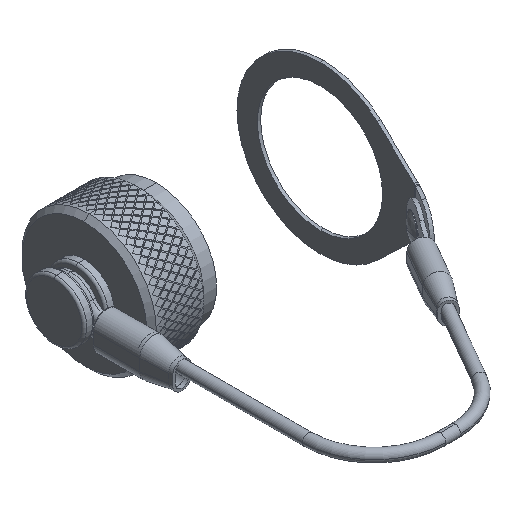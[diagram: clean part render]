
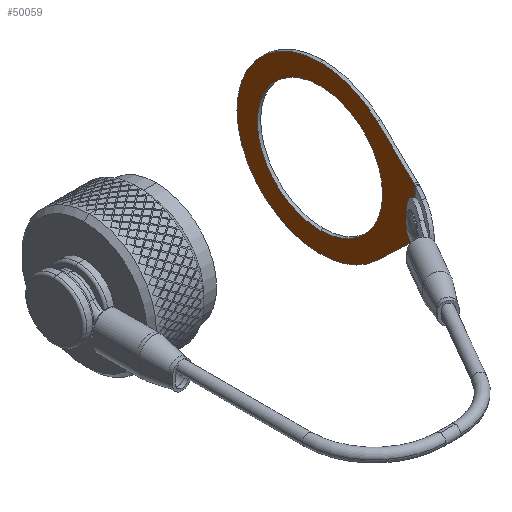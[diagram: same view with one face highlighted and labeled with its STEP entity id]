
A CAD part, isometric view. The second image highlights one B-rep face of the part: STEP entity #50059.
In plain terms, the highlighted planar face has unit normal (-1, 0, 0) as drawn and (0, 0, 1) by its records, which use the part's own axes.
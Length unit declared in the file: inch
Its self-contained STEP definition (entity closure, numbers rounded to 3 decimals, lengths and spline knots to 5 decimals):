
#1319 = CARTESIAN_POINT ( 'NONE',  ( -0.19685, -0.79528, 0.01378 ) ) ;
#2137 = DIRECTION ( 'NONE',  ( 0., 0., 1. ) ) ;
#3232 = DIRECTION ( 'NONE',  ( -1., 0., 0. ) ) ;
#5678 = CARTESIAN_POINT ( 'NONE',  ( 0., 0., 0.01378 ) ) ;
#6051 = CARTESIAN_POINT ( 'NONE',  ( 0.50041, -0.47644, 0.01378 ) ) ;
#7449 = CARTESIAN_POINT ( 'NONE',  ( 0.69094, 0., 0.01378 ) ) ;
#7979 = ORIENTED_EDGE ( 'NONE', *, *, #36018, .T. ) ;
#10494 = AXIS2_PLACEMENT_3D ( 'NONE', #18802, #14773, #13367 ) ;
#10803 = CARTESIAN_POINT ( 'NONE',  ( 0., 0., 0.01378 ) ) ;
#13367 = DIRECTION ( 'NONE',  ( 1., 0., 0. ) ) ;
#13374 = CARTESIAN_POINT ( 'NONE',  ( 0., -0.78408, 0.01378 ) ) ;
#13717 = FACE_OUTER_BOUND ( 'NONE', #45715, .T. ) ;
#14394 = ORIENTED_EDGE ( 'NONE', *, *, #31587, .T. ) ;
#14773 = DIRECTION ( 'NONE',  ( 0., 0., 1. ) ) ;
#17141 = EDGE_CURVE ( 'NONE', #61989, #52130, #48514, .T. ) ;
#18208 = EDGE_CURVE ( 'NONE', #64683, #63723, #67294, .T. ) ;
#18802 = CARTESIAN_POINT ( 'NONE',  ( 0., -0.94488, 0.01378 ) ) ;
#19072 = AXIS2_PLACEMENT_3D ( 'NONE', #5678, #27690, #65478 ) ;
#19531 = AXIS2_PLACEMENT_3D ( 'NONE', #51509, #2137, #67687 ) ;
#19985 = DIRECTION ( 'NONE',  ( 0., 0., 1. ) ) ;
#20705 = CARTESIAN_POINT ( 'NONE',  ( 0., 0., 0.01378 ) ) ;
#21049 = ORIENTED_EDGE ( 'NONE', *, *, #46947, .T. ) ;
#21525 = VECTOR ( 'NONE', #39191, 39.37008 ) ;
#22300 = CIRCLE ( 'NONE', #54477, 0.52165 ) ;
#22392 = VERTEX_POINT ( 'NONE', #48174 ) ;
#23854 = ORIENTED_EDGE ( 'NONE', *, *, #68400, .F. ) ;
#26249 = ORIENTED_EDGE ( 'NONE', *, *, #28507, .F. ) ;
#27646 = VERTEX_POINT ( 'NONE', #33063 ) ;
#27690 = DIRECTION ( 'NONE',  ( 0., 0., 1. ) ) ;
#28507 = EDGE_CURVE ( 'NONE', #64468, #27646, #54000, .T. ) ;
#30086 = AXIS2_PLACEMENT_3D ( 'NONE', #20705, #19985, #30767 ) ;
#30274 = ORIENTED_EDGE ( 'NONE', *, *, #17141, .T. ) ;
#30637 = LINE ( 'NONE', #13374, #55312 ) ;
#30767 = DIRECTION ( 'NONE',  ( 1., 0., 0. ) ) ;
#30989 = PLANE ( 'NONE',  #10494 ) ;
#31522 = DIRECTION ( 'NONE',  ( 1., 0., 0. ) ) ;
#31587 = EDGE_CURVE ( 'NONE', #63723, #61989, #50787, .T. ) ;
#33063 = CARTESIAN_POINT ( 'NONE',  ( 0.52165, 0., 0.01378 ) ) ;
#34462 = LINE ( 'NONE', #1319, #21525 ) ;
#35135 = LINE ( 'NONE', #46670, #59936 ) ;
#36018 = EDGE_CURVE ( 'NONE', #52130, #22392, #34462, .T. ) ;
#37223 = DIRECTION ( 'NONE',  ( 0., 0., 1. ) ) ;
#39191 = DIRECTION ( 'NONE',  ( 0.69, -0.724, 0. ) ) ;
#39457 = CARTESIAN_POINT ( 'NONE',  ( -0.50041, -0.47644, 0.01378 ) ) ;
#41427 = CARTESIAN_POINT ( 'NONE',  ( -0.52165, 0., 0.01378 ) ) ;
#45715 = EDGE_LOOP ( 'NONE', ( #23854, #21049, #52720, #14394, #30274, #7979 ) ) ;
#45791 = ORIENTED_EDGE ( 'NONE', *, *, #54943, .F. ) ;
#46072 = CARTESIAN_POINT ( 'NONE',  ( 0.20751, -0.78408, 0.01378 ) ) ;
#46670 = CARTESIAN_POINT ( 'NONE',  ( 0.19685, -0.79528, 0.01378 ) ) ;
#46947 = EDGE_CURVE ( 'NONE', #53482, #64683, #35135, .T. ) ;
#48174 = CARTESIAN_POINT ( 'NONE',  ( -0.20751, -0.78408, 0.01378 ) ) ;
#48514 = CIRCLE ( 'NONE', #30086, 0.69094 ) ;
#50059 = ADVANCED_FACE ( 'NONE', ( #13717, #69139 ), #30989, .T. ) ;
#50787 = CIRCLE ( 'NONE', #51923, 0.69094 ) ;
#51509 = CARTESIAN_POINT ( 'NONE',  ( 0., 0., 0.01378 ) ) ;
#51697 = DIRECTION ( 'NONE',  ( 0.69, 0.724, 0. ) ) ;
#51923 = AXIS2_PLACEMENT_3D ( 'NONE', #10803, #37223, #60122 ) ;
#52130 = VERTEX_POINT ( 'NONE', #39457 ) ;
#52720 = ORIENTED_EDGE ( 'NONE', *, *, #18208, .T. ) ;
#53482 = VERTEX_POINT ( 'NONE', #46072 ) ;
#54000 = CIRCLE ( 'NONE', #19531, 0.52165 ) ;
#54196 = DIRECTION ( 'NONE',  ( 0., 0., 1. ) ) ;
#54477 = AXIS2_PLACEMENT_3D ( 'NONE', #65337, #54196, #31522 ) ;
#54943 = EDGE_CURVE ( 'NONE', #27646, #64468, #22300, .T. ) ;
#55312 = VECTOR ( 'NONE', #3232, 39.37008 ) ;
#56669 = EDGE_LOOP ( 'NONE', ( #45791, #26249 ) ) ;
#59936 = VECTOR ( 'NONE', #51697, 39.37008 ) ;
#60122 = DIRECTION ( 'NONE',  ( 1., 0., 0. ) ) ;
#61989 = VERTEX_POINT ( 'NONE', #69649 ) ;
#63723 = VERTEX_POINT ( 'NONE', #7449 ) ;
#64468 = VERTEX_POINT ( 'NONE', #41427 ) ;
#64683 = VERTEX_POINT ( 'NONE', #6051 ) ;
#65337 = CARTESIAN_POINT ( 'NONE',  ( 0., 0., 0.01378 ) ) ;
#65478 = DIRECTION ( 'NONE',  ( 1., 0., 0. ) ) ;
#67294 = CIRCLE ( 'NONE', #19072, 0.69094 ) ;
#67687 = DIRECTION ( 'NONE',  ( 1., 0., 0. ) ) ;
#68400 = EDGE_CURVE ( 'NONE', #53482, #22392, #30637, .T. ) ;
#69139 = FACE_BOUND ( 'NONE', #56669, .T. ) ;
#69649 = CARTESIAN_POINT ( 'NONE',  ( -0.69094, 0., 0.01378 ) ) ;
